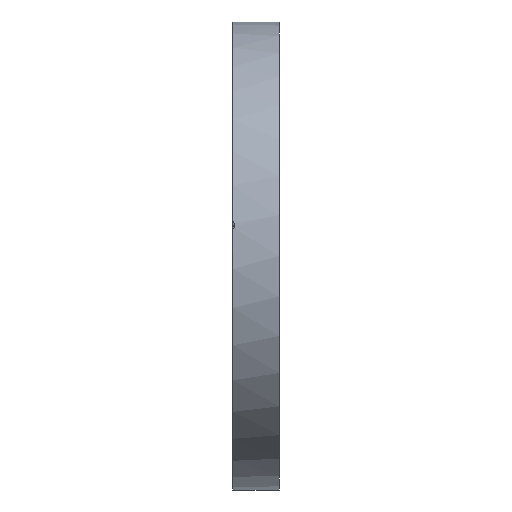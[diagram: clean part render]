
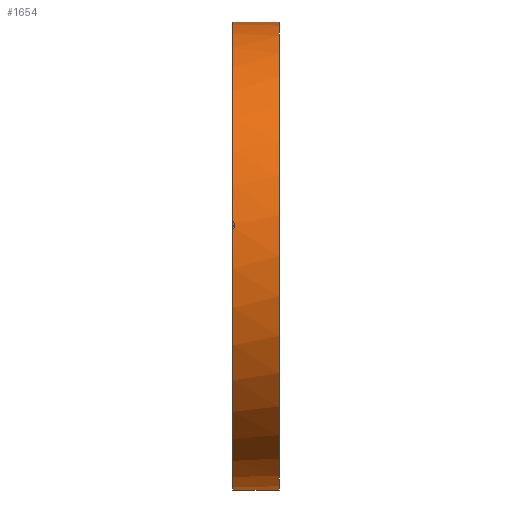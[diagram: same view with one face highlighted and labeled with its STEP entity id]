
A CAD part, left-side view. The second image highlights one B-rep face of the part: STEP entity #1654.
In plain terms, the highlighted cylindrical face has radius 127 mm (diameter 254 mm), a partial arc.
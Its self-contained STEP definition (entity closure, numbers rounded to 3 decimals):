
#26 = EDGE_CURVE ( 'NONE', #1292, #318, #100, .T. ) ;
#45 = CARTESIAN_POINT ( 'NONE',  ( -125.775, 24.175, 17.6 ) ) ;
#90 = CARTESIAN_POINT ( 'NONE',  ( 0., 25., 127. ) ) ;
#100 = CIRCLE ( 'NONE', #1563, 127. ) ;
#141 = B_SPLINE_CURVE_WITH_KNOTS ( 'NONE', 3,
 ( #1590, #602, #1381, #198, #1391, #1196, #1989, #1002, #1783, #2591, #808, #514, #45, #1912, #1114, #1308, #527, #1240 ),
 .UNSPECIFIED., .F., .F.,
 ( 4, 2, 2, 2, 2, 2, 2, 2, 4 ),
 ( 0., 0.001, 0.001, 0.002, 0.003, 0.003, 0.004, 0.004, 0.005 ),
 .UNSPECIFIED. ) ;
#171 = DIRECTION ( 'NONE',  ( 0., 1., 0. ) ) ;
#198 = CARTESIAN_POINT ( 'NONE',  ( -126.113, 24.454, 14.988 ) ) ;
#241 = VECTOR ( 'NONE', #171, 1000. ) ;
#242 = VERTEX_POINT ( 'NONE', #90 ) ;
#259 = ORIENTED_EDGE ( 'NONE', *, *, #989, .F. ) ;
#274 = CARTESIAN_POINT ( 'NONE',  ( 0., 25., -127. ) ) ;
#284 = CARTESIAN_POINT ( 'NONE',  ( 0., 0., 0. ) ) ;
#318 = VERTEX_POINT ( 'NONE', #2525 ) ;
#327 = EDGE_LOOP ( 'NONE', ( #1720, #1941, #1637, #1204, #259, #2065 ) ) ;
#345 = CIRCLE ( 'NONE', #1267, 127. ) ;
#373 = CARTESIAN_POINT ( 'NONE',  ( -125.602, 25., 18.791 ) ) ;
#471 = DIRECTION ( 'NONE',  ( 0., 1., 0. ) ) ;
#514 = CARTESIAN_POINT ( 'NONE',  ( -125.802, 24.11, 17.403 ) ) ;
#527 = CARTESIAN_POINT ( 'NONE',  ( -125.623, 24.842, 18.651 ) ) ;
#562 = EDGE_CURVE ( 'NONE', #2555, #242, #345, .T. ) ;
#566 = AXIS2_PLACEMENT_3D ( 'NONE', #284, #471, #1050 ) ;
#602 = CARTESIAN_POINT ( 'NONE',  ( -126.17, 24.842, 14.498 ) ) ;
#723 = VERTEX_POINT ( 'NONE', #1503 ) ;
#764 = AXIS2_PLACEMENT_3D ( 'NONE', #2392, #1959, #2420 ) ;
#808 = CARTESIAN_POINT ( 'NONE',  ( -125.858, 24.022, 16.994 ) ) ;
#838 = LINE ( 'NONE', #1762, #1408 ) ;
#989 = EDGE_CURVE ( 'NONE', #318, #2555, #141, .T. ) ;
#1002 = CARTESIAN_POINT ( 'NONE',  ( -125.968, 24.022, 16.16 ) ) ;
#1050 = DIRECTION ( 'NONE',  ( 0., 0., 1. ) ) ;
#1067 = CARTESIAN_POINT ( 'NONE',  ( 0., 25., 0. ) ) ;
#1114 = CARTESIAN_POINT ( 'NONE',  ( -125.695, 24.454, 18.162 ) ) ;
#1196 = CARTESIAN_POINT ( 'NONE',  ( -126.044, 24.175, 15.553 ) ) ;
#1204 = ORIENTED_EDGE ( 'NONE', *, *, #562, .F. ) ;
#1240 = CARTESIAN_POINT ( 'NONE',  ( -125.602, 25., 18.791 ) ) ;
#1267 = AXIS2_PLACEMENT_3D ( 'NONE', #2152, #1532, #2137 ) ;
#1292 = VERTEX_POINT ( 'NONE', #274 ) ;
#1308 = CARTESIAN_POINT ( 'NONE',  ( -125.646, 24.701, 18.497 ) ) ;
#1381 = CARTESIAN_POINT ( 'NONE',  ( -126.152, 24.701, 14.653 ) ) ;
#1388 = LINE ( 'NONE', #1954, #241 ) ;
#1391 = CARTESIAN_POINT ( 'NONE',  ( -126.091, 24.347, 15.172 ) ) ;
#1408 = VECTOR ( 'NONE', #2172, 1000. ) ;
#1454 = FACE_OUTER_BOUND ( 'NONE', #327, .T. ) ;
#1503 = CARTESIAN_POINT ( 'NONE',  ( 0., 0., -127. ) ) ;
#1532 = DIRECTION ( 'NONE',  ( 0., 1., 0. ) ) ;
#1563 = AXIS2_PLACEMENT_3D ( 'NONE', #1067, #1826, #1812 ) ;
#1590 = CARTESIAN_POINT ( 'NONE',  ( -126.186, 25., 14.357 ) ) ;
#1603 = EDGE_CURVE ( 'NONE', #723, #2561, #1800, .T. ) ;
#1637 = ORIENTED_EDGE ( 'NONE', *, *, #2307, .T. ) ;
#1654 = ADVANCED_FACE ( 'NONE', ( #1454 ), #1674, .T. ) ;
#1674 = CYLINDRICAL_SURFACE ( 'NONE', #566, 127. ) ;
#1720 = ORIENTED_EDGE ( 'NONE', *, *, #2564, .F. ) ;
#1762 = CARTESIAN_POINT ( 'NONE',  ( 0., 0., 127. ) ) ;
#1783 = CARTESIAN_POINT ( 'NONE',  ( -125.941, 24., 16.369 ) ) ;
#1800 = CIRCLE ( 'NONE', #764, 127. ) ;
#1812 = DIRECTION ( 'NONE',  ( 0., 0., 1. ) ) ;
#1826 = DIRECTION ( 'NONE',  ( 0., 1., 0. ) ) ;
#1912 = CARTESIAN_POINT ( 'NONE',  ( -125.721, 24.347, 17.979 ) ) ;
#1941 = ORIENTED_EDGE ( 'NONE', *, *, #1603, .T. ) ;
#1954 = CARTESIAN_POINT ( 'NONE',  ( 0., 0., -127. ) ) ;
#1959 = DIRECTION ( 'NONE',  ( 0., 1., 0. ) ) ;
#1989 = CARTESIAN_POINT ( 'NONE',  ( -126.02, 24.11, 15.75 ) ) ;
#2065 = ORIENTED_EDGE ( 'NONE', *, *, #26, .F. ) ;
#2137 = DIRECTION ( 'NONE',  ( 0., 0., 1. ) ) ;
#2152 = CARTESIAN_POINT ( 'NONE',  ( 0., 25., 0. ) ) ;
#2172 = DIRECTION ( 'NONE',  ( 0., 1., 0. ) ) ;
#2307 = EDGE_CURVE ( 'NONE', #2561, #242, #838, .T. ) ;
#2392 = CARTESIAN_POINT ( 'NONE',  ( 0., 0., 0. ) ) ;
#2400 = CARTESIAN_POINT ( 'NONE',  ( 0., 0., 127. ) ) ;
#2420 = DIRECTION ( 'NONE',  ( 0., 0., 1. ) ) ;
#2525 = CARTESIAN_POINT ( 'NONE',  ( -126.186, 25., 14.357 ) ) ;
#2555 = VERTEX_POINT ( 'NONE', #373 ) ;
#2561 = VERTEX_POINT ( 'NONE', #2400 ) ;
#2564 = EDGE_CURVE ( 'NONE', #723, #1292, #1388, .T. ) ;
#2591 = CARTESIAN_POINT ( 'NONE',  ( -125.886, 24., 16.784 ) ) ;
